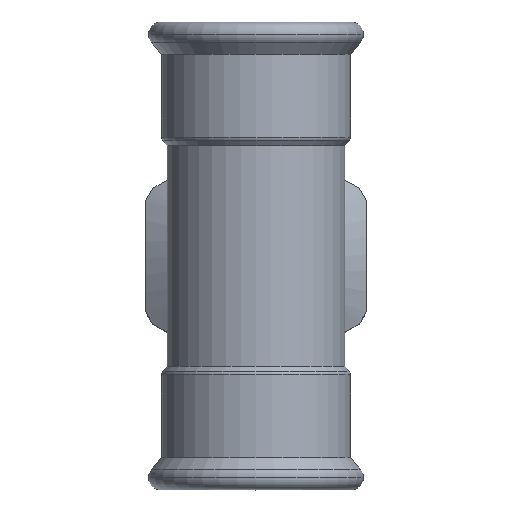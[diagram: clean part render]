
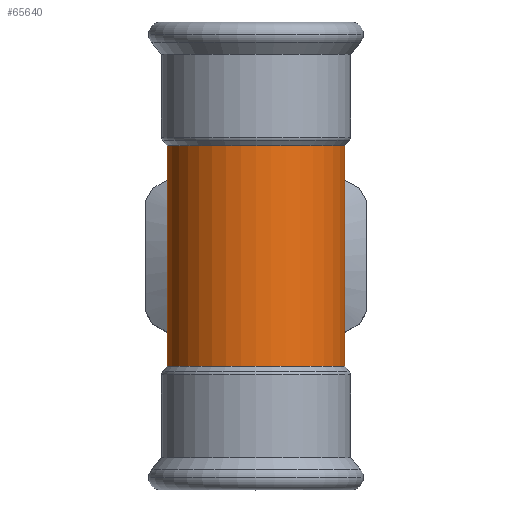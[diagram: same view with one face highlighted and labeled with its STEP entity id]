
A CAD part, top view. The second image highlights one B-rep face of the part: STEP entity #65640.
In plain terms, the highlighted cylindrical face has radius 27 mm (diameter 54 mm), a partial arc.
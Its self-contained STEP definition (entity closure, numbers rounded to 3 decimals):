
#100=CARTESIAN_POINT('',(57.344,193.695,0.));
#110=VERTEX_POINT('',#100);
#290=CARTESIAN_POINT('',(3.344,193.695,
0.));
#300=VERTEX_POINT('',#290);
#330=CARTESIAN_POINT('',(30.344,193.695,0.));
#340=DIRECTION('',(0.,1.,0.));
#350=DIRECTION('',(1.,0.,0.));
#360=AXIS2_PLACEMENT_3D('',#330,#340,#350);
#370=CIRCLE('',#360,27.);
#15070=CARTESIAN_POINT('',(30.344,126.695,0.));
#15080=DIRECTION('',(0.,-1.,0.));
#15090=DIRECTION('',(1.,0.,0.));
#15100=AXIS2_PLACEMENT_3D('',#15070,#15080,#15090);
#15110=CYLINDRICAL_SURFACE('',#15100,27.);
#24360=CARTESIAN_POINT('',(3.344,126.695,
0.));
#24370=DIRECTION('',(0.,-1.,0.));
#24380=VECTOR('',#24370,1.);
#24390=LINE('',#24360,#24380);
#24400=CARTESIAN_POINT('',(3.344,126.695,
0.));
#24410=VERTEX_POINT('',#24400);
#24420=EDGE_CURVE('',#300,#24410,#24390,.T.);
#24440=CARTESIAN_POINT('',(30.344,126.695,0.));
#24450=DIRECTION('',(0.,-1.,0.));
#24460=DIRECTION('',(-1.,0.,0.));
#24470=AXIS2_PLACEMENT_3D('',#24440,#24450,#24460);
#24480=CIRCLE('',#24470,27.);
#24490=CARTESIAN_POINT('',(57.344,126.695,0.));
#24500=VERTEX_POINT('',#24490);
#24530=CARTESIAN_POINT('',(57.344,126.695,0.));
#24540=DIRECTION('',(0.,-1.,0.));
#24550=VECTOR('',#24540,1.);
#24560=LINE('',#24530,#24550);
#24570=EDGE_CURVE('',#110,#24500,#24560,.T.);
#63510=EDGE_CURVE('',#300,#110,#370,.T.);
#65020=EDGE_CURVE('',#24500,#24410,#24480,.T.);
#65580=ORIENTED_EDGE('',*,*,#63510,.F.);
#65590=ORIENTED_EDGE('',*,*,#24570,.F.);
#65600=ORIENTED_EDGE('',*,*,#65020,.F.);
#65610=ORIENTED_EDGE('',*,*,#24420,.T.);
#65620=EDGE_LOOP('',(#65610,#65600,#65590,#65580));
#65630=FACE_OUTER_BOUND('',#65620,.T.);
#65640=ADVANCED_FACE('',(#65630),#15110,.T.);
